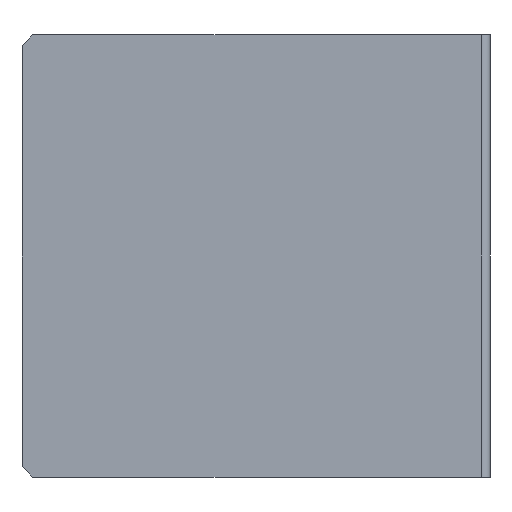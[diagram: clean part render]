
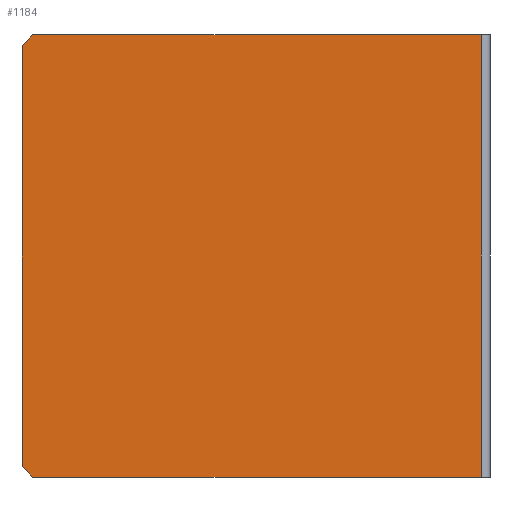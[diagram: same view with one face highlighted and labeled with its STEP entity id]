
A CAD part, left-side view. The second image highlights one B-rep face of the part: STEP entity #1184.
In plain terms, the highlighted planar face has unit normal (-1, 0, 0).
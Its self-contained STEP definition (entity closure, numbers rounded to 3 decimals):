
#36 = ORIENTED_EDGE ( 'NONE', *, *, #2183, .T. ) ;
#173 = AXIS2_PLACEMENT_3D ( 'NONE', #1763, #212, #2032 ) ;
#212 = DIRECTION ( 'NONE',  ( -1., 0., 0. ) ) ;
#374 = FACE_OUTER_BOUND ( 'NONE', #2540, .T. ) ;
#378 = LINE ( 'NONE', #1142, #1615 ) ;
#403 = LINE ( 'NONE', #964, #1642 ) ;
#430 = EDGE_CURVE ( 'NONE', #683, #659, #1704, .T. ) ;
#491 = LINE ( 'NONE', #711, #2119 ) ;
#624 = VERTEX_POINT ( 'NONE', #1655 ) ;
#659 = VERTEX_POINT ( 'NONE', #853 ) ;
#683 = VERTEX_POINT ( 'NONE', #1690 ) ;
#711 = CARTESIAN_POINT ( 'NONE',  ( 0., 0., 302.5 ) ) ;
#749 = PLANE ( 'NONE',  #173 ) ;
#826 = EDGE_CURVE ( 'NONE', #1673, #1244, #378, .T. ) ;
#843 = CARTESIAN_POINT ( 'NONE',  ( 0., 320.5, 302.5 ) ) ;
#853 = CARTESIAN_POINT ( 'NONE',  ( 0., 6., 302.5 ) ) ;
#878 = DIRECTION ( 'NONE',  ( 0., 0.707, 0.707 ) ) ;
#963 = EDGE_CURVE ( 'NONE', #624, #1244, #3140, .T. ) ;
#964 = CARTESIAN_POINT ( 'NONE',  ( 0., 0., -7.5 ) ) ;
#1062 = VECTOR ( 'NONE', #1112, 1000. ) ;
#1112 = DIRECTION ( 'NONE',  ( 0., 0., -1. ) ) ;
#1142 = CARTESIAN_POINT ( 'NONE',  ( 0., 320.5, -7.5 ) ) ;
#1184 = ADVANCED_FACE ( 'NONE', ( #374 ), #749, .T. ) ;
#1189 = VECTOR ( 'NONE', #2233, 1000. ) ;
#1204 = VECTOR ( 'NONE', #3359, 1000. ) ;
#1244 = VERTEX_POINT ( 'NONE', #1282 ) ;
#1282 = CARTESIAN_POINT ( 'NONE',  ( 0., 328., 0. ) ) ;
#1360 = ORIENTED_EDGE ( 'NONE', *, *, #826, .F. ) ;
#1376 = VERTEX_POINT ( 'NONE', #843 ) ;
#1445 = CARTESIAN_POINT ( 'NONE',  ( 0., 6., 295. ) ) ;
#1514 = CARTESIAN_POINT ( 'NONE',  ( 0., 320.5, 302.5 ) ) ;
#1559 = ORIENTED_EDGE ( 'NONE', *, *, #963, .T. ) ;
#1615 = VECTOR ( 'NONE', #878, 1000. ) ;
#1642 = VECTOR ( 'NONE', #3045, 1000. ) ;
#1655 = CARTESIAN_POINT ( 'NONE',  ( 0., 328., 295. ) ) ;
#1673 = VERTEX_POINT ( 'NONE', #2197 ) ;
#1690 = CARTESIAN_POINT ( 'NONE',  ( 0., 6., -7.5 ) ) ;
#1704 = LINE ( 'NONE', #1445, #1189 ) ;
#1763 = CARTESIAN_POINT ( 'NONE',  ( 0., 0., 295. ) ) ;
#1785 = EDGE_CURVE ( 'NONE', #1376, #624, #2504, .T. ) ;
#1831 = EDGE_CURVE ( 'NONE', #683, #1673, #403, .T. ) ;
#1880 = ORIENTED_EDGE ( 'NONE', *, *, #1785, .T. ) ;
#2032 = DIRECTION ( 'NONE',  ( 0., 0., 1. ) ) ;
#2119 = VECTOR ( 'NONE', #2271, 1000. ) ;
#2155 = ORIENTED_EDGE ( 'NONE', *, *, #1831, .F. ) ;
#2183 = EDGE_CURVE ( 'NONE', #659, #1376, #491, .T. ) ;
#2197 = CARTESIAN_POINT ( 'NONE',  ( 0., 320.5, -7.5 ) ) ;
#2233 = DIRECTION ( 'NONE',  ( 0., 0., 1. ) ) ;
#2271 = DIRECTION ( 'NONE',  ( 0., 1., 0. ) ) ;
#2504 = LINE ( 'NONE', #1514, #1204 ) ;
#2540 = EDGE_LOOP ( 'NONE', ( #2155, #3164, #36, #1880, #1559, #1360 ) ) ;
#2658 = CARTESIAN_POINT ( 'NONE',  ( 0., 328., 295. ) ) ;
#3045 = DIRECTION ( 'NONE',  ( 0., 1., 0. ) ) ;
#3140 = LINE ( 'NONE', #2658, #1062 ) ;
#3164 = ORIENTED_EDGE ( 'NONE', *, *, #430, .T. ) ;
#3359 = DIRECTION ( 'NONE',  ( 0., 0.707, -0.707 ) ) ;
